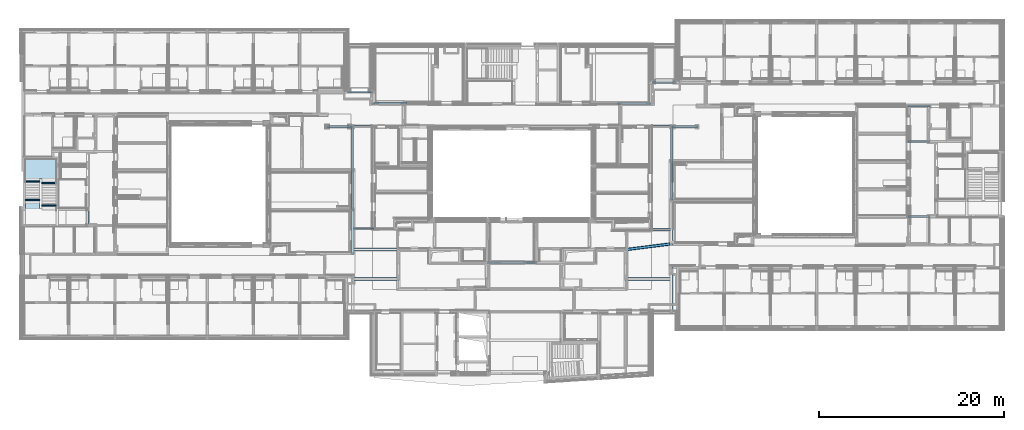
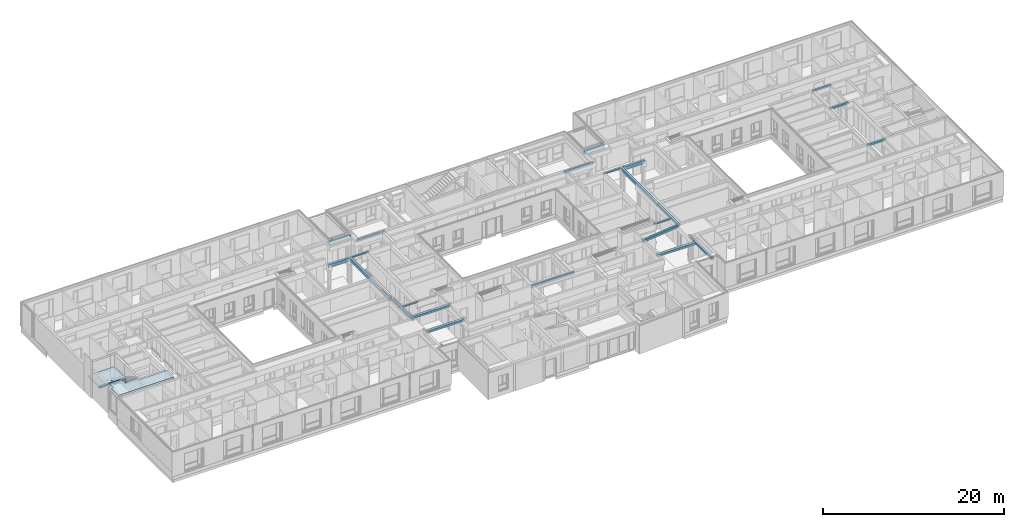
# One storey, part 6 of 207: 24 beams, 6 slabs.
"""IFC4 building model written with IfcOpenShell, lengths in metres."""

from ifc_helpers import new_model, entity, si_unit, converted_unit, derived_unit, frame, frame_2d, origin, origin_with_axes, place, context, subcontext, project, spatial, polyline, rectangle, outline, extrude, faceted_brep, material, element, save


model = new_model("IFC4")

# Units and contexts
model_context = context("Model", 3, precision=1e-05, world=origin())
body_context = subcontext(model_context, "Body", "Model", "MODEL_VIEW")
ifc_project = project(units=[si_unit("LENGTHUNIT", "METRE"), si_unit("AREAUNIT", "SQUARE_METRE"), si_unit("VOLUMEUNIT", "CUBIC_METRE"), si_unit("MASSUNIT", "GRAM", prefix="KILO"), converted_unit("PLANEANGLEUNIT", "DEGREE", entity("IfcPlaneAngleMeasure", 0.0174532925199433), si_unit("PLANEANGLEUNIT", "RADIAN"), dimensions=[0, 0, 0, 0, 0, 0, 0]), derived_unit("THERMALTRANSMITTANCEUNIT", [(si_unit("POWERUNIT", "WATT"), 1), (si_unit("THERMODYNAMICTEMPERATUREUNIT", "KELVIN"), -1), (si_unit("LENGTHUNIT", "METRE"), -2)]), derived_unit("VOLUMETRICFLOWRATEUNIT", [(si_unit("LENGTHUNIT", "METRE"), 3), (converted_unit("TIMEUNIT", "hour", entity("IfcTimeMeasure", 3600.0), si_unit("TIMEUNIT", "SECOND"), dimensions=[0, 0, 1, 0, 0, 0, 0]), -1), (si_unit("LENGTHUNIT", "METRE"), -1)])], contexts=[model_context])

# Site, building, storey
site_placement = place(None, origin())
site = spatial("IfcSite", under=ifc_project, at=site_placement, Name="Psychiatrie Neubau Wunstorf", CompositionType="ELEMENT")
building_placement = place(site_placement, origin())
building = spatial("IfcBuilding", under=site, at=building_placement, Name="Neubau H2 Stationsgebäude", CompositionType="ELEMENT")
storey_placement = place(building_placement, frame((0.0, 0.0, -0.2)))
storey = spatial("IfcBuildingStorey", under=building, at=storey_placement, Name="H2 Ebene 0", CompositionType="ELEMENT", Elevation=-0.2)

# Beams
ifc_material_1 = material(Name="BS Bekleidung")
beam_1_placement = place(storey_placement, frame((68.1750000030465, 25.114, 3.164)))
element("IfcBeam", 1, at=beam_1_placement, inside=storey, material=ifc_material_1, PredefinedType="NOTDEFINED", context=body_context, shape_type="Brep", body=[
    faceted_brep([(0.0, 0.232, 0.0), (0.0, 0.0, 0.0), (2.65, 0.0, 0.0), (2.65, 0.232, 0.0), (0.0, 0.196, 0.436), (0.0, 0.232, 0.436), (2.65, 0.232, 0.436), (2.65, 0.196, 0.436), (0.0, 0.196, 0.036), (0.0, 0.036, 0.036), (0.0, 0.036, 0.436), (0.0, 0.0, 0.436), (2.65, 0.0, 0.436), (2.65, 0.036, 0.436), (2.65, 0.036, 0.036), (2.65, 0.196, 0.036)], [[[0, 1, 2, 3]], [[4, 5, 6, 7]], [[8, 9, 10, 11, 1, 0, 5, 4]], [[2, 1, 11, 12]], [[7, 6, 3, 2, 12, 13, 14, 15]], [[0, 3, 6, 5]], [[13, 12, 11, 10]], [[14, 9, 8, 15]], [[13, 10, 9, 14]], [[15, 8, 4, 7]]], orient=[[False], [False], [False], [False], [False], [False], [False], [False], [False], [False]]),
])
ifc_material_2 = material(Name="BS Bekleidung")
beam_2_placement = place(storey_placement, frame((35.1750000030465, 24.114, 3.164)))
element("IfcBeam", 2, at=beam_2_placement, inside=storey, material=ifc_material_2, PredefinedType="NOTDEFINED", context=body_context, shape_type="Brep", body=[
    faceted_brep([(0.0, 0.231998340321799, 0.0), (0.0, 0.0, 0.0), (2.71849999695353, 3.66210940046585e-06, 0.0), (2.71849999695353, 0.2320020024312, 0.0), (0.0, 0.195998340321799, 0.436), (0.0, 0.231998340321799, 0.436), (2.71849999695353, 0.2320020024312, 0.436), (2.71849999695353, 0.1960020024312, 0.436), (0.0, 0.195998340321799, 0.036), (0.0, 0.036, 0.036), (0.0, 0.036, 0.436), (0.0, 0.0, 0.436), (2.71849999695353, 3.66210940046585e-06, 0.436), (2.71849999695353, 0.0360036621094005, 0.436), (2.71849999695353, 0.0360036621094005, 0.036), (2.71849999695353, 0.1960020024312, 0.036)], [[[0, 1, 2, 3]], [[4, 5, 6, 7]], [[8, 9, 10, 11, 1, 0, 5, 4]], [[2, 1, 11, 12]], [[7, 6, 3, 2, 12, 13, 14, 15]], [[0, 3, 6, 5]], [[13, 12, 11, 10]], [[14, 9, 8, 15]], [[13, 10, 9, 14]], [[15, 8, 4, 7]]], orient=[[False], [False], [False], [False], [False], [False], [False], [False], [False], [False]]),
])
ifc_material_3 = material(Name="BS Bekleidung")
beam_3_placement = place(storey_placement, frame((65.2457246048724, 6.98291094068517, 3.334)))
element("IfcBeam", 3, at=beam_3_placement, inside=storey, material=ifc_material_3, PredefinedType="NOTDEFINED", context=body_context, shape_type="Brep", body=[
    faceted_brep([(0.0, 0.309533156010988, 0.0), (0.0391564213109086, 0.0, 0.0), (4.91465345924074, 0.616757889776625, 0.0), (4.91388004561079, 0.931146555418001, 0.0), (0.0391564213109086, 0.0, 0.266), (4.91465345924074, 0.616757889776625, 0.266), (4.91388004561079, 0.931146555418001, 0.266), (0.0, 0.309533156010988, 0.266), (0.00451804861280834, 0.273817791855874, 0.266), (0.00451804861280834, 0.273817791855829, 0.036), (0.0346383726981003, 0.0357153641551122, 0.036), (0.0346383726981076, 0.035715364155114, 0.266), (4.91456421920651, 0.653033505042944, 0.266), (4.91456421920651, 0.653033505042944, 0.036), (4.91396928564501, 0.894870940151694, 0.036), (4.91396928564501, 0.894870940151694, 0.266)], [[[0, 1, 2, 3]], [[2, 1, 4, 5]], [[0, 3, 6, 7]], [[4, 1, 0, 7, 8, 9, 10, 11]], [[6, 3, 2, 5, 12, 13, 14, 15]], [[7, 6, 15, 8]], [[5, 4, 11, 12]], [[12, 11, 10, 13]], [[8, 15, 14, 9]], [[14, 13, 10, 9]]], orient=[[False], [False], [False], [False], [False], [False], [False], [False], [False], [False]]),
])
ifc_material_4 = material(Name="HEA240")
beam_4_placement = place(storey_placement, frame((65.2649913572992, 7.01668535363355, 3.37)))
element("IfcBeam", 4, at=beam_4_placement, inside=storey, material=ifc_material_4, Name="HEA240", PredefinedType="NOTDEFINED", context=body_context, shape_type="Brep", body=[
    faceted_brep([(0.0, 0.241912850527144, 0.0), (4.87000017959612, 0.858000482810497, 0.0), (4.87000017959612, 0.858000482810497, 0.23), (0.0, 0.241912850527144, 0.23), (4.86999999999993, 0.616087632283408, 0.0), (4.86999999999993, 0.616087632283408, 0.23), (0.0, 0.0, 0.0), (0.0, 0.0, 0.23)], [[[0, 1, 2, 3]], [[1, 4, 5, 2]], [[4, 6, 7, 5]], [[6, 0, 3, 7]], [[7, 3, 2, 5]], [[0, 6, 4, 1]]], orient=[[False], [False], [False], [False], [False], [False]]),
])
ifc_material_5 = material(Name="BS Bekleidung")
beam_5_placement = place(storey_placement, frame((70.099000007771, 7.63750000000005, 3.334)))
element("IfcBeam", 5, at=beam_5_placement, inside=storey, material=ifc_material_5, PredefinedType="NOTDEFINED", context=body_context, shape_type="Brep", body=[
    faceted_brep([(0.0, 0.0, 0.0), (0.312, 0.0, 0.0), (0.312, 4.81255950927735, 0.0), (0.0, 4.81255950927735, 0.0), (0.036, 0.0, 0.266), (0.0, 0.0, 0.266), (0.0, 4.81255950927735, 0.266), (0.036, 4.81255950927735, 0.266), (0.036, 0.0, 0.036), (0.276, 0.0, 0.036), (0.276, 0.0, 0.266), (0.312, 0.0, 0.266), (0.312, 4.81255950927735, 0.266), (0.276, 4.81255950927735, 0.266), (0.276, 4.81255950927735, 0.036), (0.036, 4.81255950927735, 0.036)], [[[0, 1, 2, 3]], [[4, 5, 6, 7]], [[8, 9, 10, 11, 1, 0, 5, 4]], [[2, 1, 11, 12]], [[7, 6, 3, 2, 12, 13, 14, 15]], [[0, 3, 6, 5]], [[13, 12, 11, 10]], [[14, 9, 8, 15]], [[13, 10, 9, 14]], [[15, 8, 4, 7]]], orient=[[False], [False], [False], [False], [False], [False], [False], [False], [False], [False]]),
])
ifc_material_6 = material(Name="BS Bekleidung")
beam_6_placement = place(storey_placement, frame((35.5889950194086, 6.63699856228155, 3.334)))
element("IfcBeam", 6, at=beam_6_placement, inside=storey, material=ifc_material_6, PredefinedType="NOTDEFINED", context=body_context, shape_type="Brep", body=[
    faceted_brep([(0.0, 2.4817354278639e-07, 0.0), (0.311999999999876, 0.0, 0.0), (0.312004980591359, 4.81655673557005, 0.0), (4.98059134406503e-06, 4.81655673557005, 0.0), (0.036, 2.4817354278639e-07, 0.266), (0.0, 2.4817354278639e-07, 0.266), (4.98059134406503e-06, 4.81655673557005, 0.266), (0.0360049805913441, 4.81655673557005, 0.266), (0.036, 2.4817354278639e-07, 0.036), (0.275999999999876, 0.0, 0.036), (0.275999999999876, 0.0, 0.266), (0.311999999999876, 0.0, 0.266), (0.312004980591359, 4.81655673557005, 0.266), (0.276004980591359, 4.81655673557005, 0.266), (0.276004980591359, 4.81655673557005, 0.036), (0.0360049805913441, 4.81655673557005, 0.036)], [[[0, 1, 2, 3]], [[4, 5, 6, 7]], [[0, 5, 4, 8, 9, 10, 11, 1]], [[2, 1, 11, 12]], [[7, 6, 3, 2, 12, 13, 14, 15]], [[0, 3, 6, 5]], [[13, 12, 11, 10]], [[14, 9, 8, 15]], [[13, 10, 9, 14]], [[15, 8, 4, 7]]], orient=[[False], [False], [False], [False], [False], [False], [False], [False], [False], [False]]),
])
ifc_material_7 = material(Name="BS Bekleidung")
beam_7_placement = place(storey_placement, frame((35.8649950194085, 6.99049353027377, 3.334)))
element("IfcBeam", 7, at=beam_7_placement, inside=storey, material=ifc_material_7, PredefinedType="NOTDEFINED", context=body_context, shape_type="Brep", body=[
    faceted_brep([(0.0, 0.312000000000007, 0.0), (0.0, 0.0, 0.0), (4.87000253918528, 8.90260331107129e-06, 0.0), (4.87000253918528, 0.312008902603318, 0.0), (0.0, 0.276000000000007, 0.266), (0.0, 0.312000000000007, 0.266), (4.87000253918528, 0.312008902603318, 0.266), (4.87000253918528, 0.276008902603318, 0.266), (0.0, 0.276000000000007, 0.036), (0.0, 0.036, 0.036), (0.0, 0.036, 0.266), (0.0, 0.0, 0.266), (4.87000253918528, 8.90260331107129e-06, 0.266), (4.87000253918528, 0.0360089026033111, 0.266), (4.87000253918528, 0.0360089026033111, 0.036), (4.87000253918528, 0.276008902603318, 0.036)], [[[0, 1, 2, 3]], [[4, 5, 6, 7]], [[8, 9, 10, 11, 1, 0, 5, 4]], [[2, 1, 11, 12]], [[7, 6, 3, 2, 12, 13, 14, 15]], [[0, 3, 6, 5]], [[13, 12, 11, 10]], [[14, 9, 8, 15]], [[13, 10, 9, 14]], [[15, 8, 4, 7]]], orient=[[False], [False], [False], [False], [False], [False], [False], [False], [False], [False]]),
])
ifc_material_8 = material(Name="BS Bekleidung")
beam_8_placement = place(storey_placement, frame((35.8649954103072, 9.3239943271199, 3.431)))
element("IfcBeam", 8, at=beam_8_placement, inside=storey, material=ifc_material_8, PredefinedType="NOTDEFINED", context=body_context, shape_type="Brep", body=[
    faceted_brep([(0.0, 0.212, 0.0), (0.0, 0.0, 0.0), (2.17500517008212, 0.0, 0.0), (2.17500517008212, 0.212, 0.0), (0.0, 0.176, 0.169), (0.0, 0.212, 0.169), (2.17500517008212, 0.212, 0.169), (2.17500517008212, 0.176, 0.169), (0.0, 0.176, 0.036), (0.0, 0.036, 0.036), (0.0, 0.036, 0.169), (0.0, 0.0, 0.169), (2.17500517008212, 0.0, 0.169), (2.17500517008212, 0.036, 0.169), (2.17500517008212, 0.036, 0.036), (2.17500517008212, 0.176, 0.036)], [[[0, 1, 2, 3]], [[4, 5, 6, 7]], [[8, 9, 10, 11, 1, 0, 5, 4]], [[2, 1, 11, 12]], [[7, 6, 3, 2, 12, 13, 14, 15]], [[0, 3, 6, 5]], [[13, 12, 11, 10]], [[14, 9, 8, 15]], [[13, 10, 9, 14]], [[15, 8, 4, 7]]], orient=[[False], [False], [False], [False], [False], [False], [False], [False], [False], [False]]),
])
ifc_material_9 = material(Name="BS Bekleidung")
beam_9_placement = place(storey_placement, frame((67.9099895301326, 9.19899755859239, 3.431)))
element("IfcBeam", 9, at=beam_9_placement, inside=storey, material=ifc_material_9, PredefinedType="NOTDEFINED", context=body_context, shape_type="Brep", body=[
    faceted_brep([(0.0, 0.212, 0.0), (0.0, 0.0, 0.0), (2.22501047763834, 0.0, 0.0), (2.22501047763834, 0.212000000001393, 0.0), (0.0, 0.176, 0.169), (0.0, 0.212, 0.169), (2.22501047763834, 0.212000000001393, 0.169), (2.22501047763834, 0.176000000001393, 0.169), (0.0, 0.176, 0.036), (0.0, 0.036, 0.036), (0.0, 0.036, 0.169), (0.0, 0.0, 0.169), (2.22501047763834, 0.0, 0.169), (2.22501047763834, 0.0360000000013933, 0.169), (2.22501047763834, 0.0360000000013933, 0.036), (2.22501047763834, 0.176000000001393, 0.036)], [[[0, 1, 2, 3]], [[4, 5, 6, 7]], [[8, 9, 10, 11, 1, 0, 5, 4]], [[2, 1, 11, 12]], [[7, 6, 3, 2, 12, 13, 14, 15]], [[0, 3, 6, 5]], [[13, 12, 11, 10]], [[14, 9, 8, 15]], [[13, 10, 9, 14]], [[15, 8, 4, 7]]], orient=[[False], [False], [False], [False], [False], [False], [False], [False], [False], [False]]),
])
ifc_material_10 = material(Name="BS Bekleidung")
beam_10_placement = place(storey_placement, frame((70.0989950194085, 0.3399963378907, 3.334)))
element("IfcBeam", 10, at=beam_10_placement, inside=storey, material=ifc_material_10, PredefinedType="NOTDEFINED", context=body_context, shape_type="Brep", body=[
    faceted_brep([(0.0, 0.0, 0.0), (0.312, 0.0, 0.0), (0.312, 4.96250366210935, 0.0), (0.0, 4.96250366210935, 0.0), (0.036, 0.0, 0.266), (0.0, 0.0, 0.266), (0.0, 4.96250366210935, 0.266), (0.036, 4.96250366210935, 0.266), (0.036, 0.0, 0.036), (0.276, 0.0, 0.036), (0.276, 0.0, 0.266), (0.312, 0.0, 0.266), (0.312, 4.96250366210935, 0.266), (0.276, 4.96250366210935, 0.266), (0.276, 4.96250366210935, 0.036), (0.036, 4.96250366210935, 0.036)], [[[0, 1, 2, 3]], [[4, 5, 6, 7]], [[8, 9, 10, 11, 1, 0, 5, 4]], [[2, 1, 11, 12]], [[7, 6, 3, 2, 12, 13, 14, 15]], [[0, 3, 6, 5]], [[13, 12, 11, 10]], [[14, 9, 8, 15]], [[13, 10, 9, 14]], [[15, 8, 4, 7]]], orient=[[False], [False], [False], [False], [False], [False], [False], [False], [False], [False]]),
])
ifc_material_11 = material(Name="BS Bekleidung")
beam_11_placement = place(storey_placement, frame((95.8864937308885, 22.6039990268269, 3.364)))
element("IfcBeam", 11, at=beam_11_placement, inside=storey, material=ifc_material_11, PredefinedType="NOTDEFINED", context=body_context, shape_type="Brep", body=[
    faceted_brep([(0.0, 0.232, 0.0), (0.0, 0.0, 0.0), (2.38850128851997, 0.0, 0.0), (2.38850128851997, 0.232, 0.0), (0.0, 0.196, 0.236), (0.0, 0.232, 0.236), (2.38850128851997, 0.232, 0.236), (2.38850128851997, 0.196, 0.236), (0.0, 0.196, 0.036), (0.0, 0.036, 0.036), (0.0, 0.036, 0.236), (0.0, 0.0, 0.236), (2.38850128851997, 0.0, 0.236), (2.38850128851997, 0.036, 0.236), (2.38850128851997, 0.036, 0.036), (2.38850128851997, 0.196, 0.036)], [[[0, 1, 2, 3]], [[4, 5, 6, 7]], [[8, 9, 10, 11, 1, 0, 5, 4]], [[2, 1, 11, 12]], [[7, 6, 3, 2, 12, 13, 14, 15]], [[0, 3, 6, 5]], [[13, 12, 11, 10]], [[14, 9, 8, 15]], [[13, 10, 9, 14]], [[15, 8, 4, 7]]], orient=[[False], [False], [False], [False], [False], [False], [False], [False], [False], [False]]),
])
ifc_material_12 = material(Name="BS Bekleidung")
beam_12_placement = place(storey_placement, frame((95.8864937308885, 18.7540040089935, 3.364)))
element("IfcBeam", 12, at=beam_12_placement, inside=storey, material=ifc_material_12, PredefinedType="NOTDEFINED", context=body_context, shape_type="Brep", body=[
    faceted_brep([(0.0, 0.232, 0.0), (0.0, 0.0, 0.0), (2.38850128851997, 4.22835619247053e-07, 0.0), (2.38850128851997, 0.232000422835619, 0.0), (0.0, 0.196, 0.236), (0.0, 0.232, 0.236), (2.38850128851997, 0.232000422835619, 0.236), (2.38850128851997, 0.196000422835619, 0.236), (0.0, 0.196, 0.036), (0.0, 0.036, 0.036), (0.0, 0.036, 0.236), (0.0, 0.0, 0.236), (2.38850128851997, 4.22835619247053e-07, 0.236), (2.38850128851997, 0.0360004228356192, 0.236), (2.38850128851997, 0.0360004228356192, 0.036), (2.38850128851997, 0.196000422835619, 0.036)], [[[0, 1, 2, 3]], [[4, 5, 6, 7]], [[8, 9, 10, 11, 1, 0, 5, 4]], [[2, 1, 11, 12]], [[7, 6, 3, 2, 12, 13, 14, 15]], [[0, 3, 6, 5]], [[13, 12, 11, 10]], [[14, 9, 8, 15]], [[13, 10, 9, 14]], [[15, 8, 4, 7]]], orient=[[False], [False], [False], [False], [False], [False], [False], [False], [False], [False]]),
])
ifc_material_13 = material(Name="BS Bekleidung")
beam_13_placement = place(storey_placement, frame((50.2855000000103, 5.61749969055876, 3.245)))
element("IfcBeam", 13, at=beam_13_placement, inside=storey, material=ifc_material_13, PredefinedType="NOTDEFINED", context=body_context, shape_type="Brep", body=[
    faceted_brep([(0.0, 0.232000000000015, 0.0), (0.0, 0.0, 0.0), (5.44700000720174, 0.0, 0.0), (5.44699980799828, 0.232, 0.0), (0.0, 0.196, 0.355), (0.0, 0.232000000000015, 0.355), (5.44699960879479, 0.232, 0.355), (5.44699960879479, 0.196, 0.355), (0.0, 0.196, 0.036), (0.0, 0.036, 0.036), (0.0, 0.036, 0.355), (0.0, 0.0, 0.355), (5.44699980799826, 0.0, 0.355), (5.44699980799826, 0.036, 0.355), (5.44700000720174, 0.036, 0.036), (5.44699980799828, 0.196, 0.036)], [[[0, 1, 2, 3]], [[4, 5, 6, 7]], [[8, 9, 10, 11, 1, 0, 5, 4]], [[2, 1, 11, 12]], [[7, 6, 3, 2, 12, 13, 14, 15]], [[0, 3, 6, 5]], [[13, 12, 11, 10]], [[14, 9, 8, 15]], [[13, 10, 9, 14]], [[15, 8, 4, 7]]], orient=[[False], [False], [False], [False], [False], [False], [False], [False], [False], [False]]),
])
ifc_material_14 = material(Name="BS Bekleidung")
beam_14_placement = place(storey_placement, frame((35.8649950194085, 3.80399969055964, 3.334)))
element("IfcBeam", 14, at=beam_14_placement, inside=storey, material=ifc_material_14, PredefinedType="NOTDEFINED", context=body_context, shape_type="Brep", body=[
    faceted_brep([(0.0, 0.312000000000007, 0.0), (0.0, 0.0, 0.0), (4.87000253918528, 0.0, 0.0), (4.87000253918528, 0.312000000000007, 0.0), (0.0, 0.276000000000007, 0.266), (0.0, 0.312000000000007, 0.266), (4.87000253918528, 0.312000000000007, 0.266), (4.87000253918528, 0.276000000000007, 0.266), (0.0, 0.276000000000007, 0.036), (0.0, 0.036, 0.036), (0.0, 0.036, 0.266), (0.0, 0.0, 0.266), (4.87000253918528, 0.0, 0.266), (4.87000253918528, 0.036, 0.266), (4.87000253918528, 0.036, 0.036), (4.87000253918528, 0.276000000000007, 0.036)], [[[0, 1, 2, 3]], [[4, 5, 6, 7]], [[8, 9, 10, 11, 1, 0, 5, 4]], [[2, 1, 11, 12]], [[7, 6, 3, 2, 12, 13, 14, 15]], [[0, 3, 6, 5]], [[13, 12, 11, 10]], [[14, 9, 8, 15]], [[13, 10, 9, 14]], [[15, 8, 4, 7]]], orient=[[False], [False], [False], [False], [False], [False], [False], [False], [False], [False]]),
])
ifc_material_15 = material(Name="BS Bekleidung")
beam_15_placement = place(storey_placement, frame((65.2650024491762, 3.80399084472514, 3.334)))
element("IfcBeam", 15, at=beam_15_placement, inside=storey, material=ifc_material_15, PredefinedType="NOTDEFINED", context=body_context, shape_type="Brep", body=[
    faceted_brep([(0.0, 0.312006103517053, 0.0), (0.0, 6.10351704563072e-06, 0.0), (4.86999257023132, 0.0, 0.0), (4.86999257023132, 0.312000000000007, 0.0), (0.0, 0.276006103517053, 0.266), (0.0, 0.312006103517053, 0.266), (4.86999257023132, 0.312000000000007, 0.266), (4.86999257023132, 0.276000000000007, 0.266), (0.0, 0.276006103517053, 0.036), (0.0, 0.0360061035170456, 0.036), (0.0, 0.0360061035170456, 0.266), (0.0, 6.10351704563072e-06, 0.266), (4.86999257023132, 0.0, 0.266), (4.86999257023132, 0.036, 0.266), (4.86999257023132, 0.036, 0.036), (4.86999257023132, 0.276000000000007, 0.036)], [[[0, 1, 2, 3]], [[4, 5, 6, 7]], [[8, 9, 10, 11, 1, 0, 5, 4]], [[2, 1, 11, 12]], [[7, 6, 3, 2, 12, 13, 14, 15]], [[0, 3, 6, 5]], [[13, 12, 11, 10]], [[14, 9, 8, 15]], [[13, 10, 9, 14]], [[15, 8, 4, 7]]], orient=[[False], [False], [False], [False], [False], [False], [False], [False], [False], [False]]),
])
ifc_material_16 = material(Name="BS Bekleidung")
beam_16_placement = place(storey_placement, frame((64.4125000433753, 22.8639969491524, 3.264)))
element("IfcBeam", 16, at=beam_16_placement, inside=storey, material=ifc_material_16, PredefinedType="NOTDEFINED", context=body_context, shape_type="Brep", body=[
    faceted_brep([(0.0, 0.232002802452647, 0.0), (0.0, 3.18191962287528e-06, 0.0), (3.64053015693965, 0.0, 0.0), (3.64049325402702, 0.231999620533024, 0.0), (0.0, 0.196002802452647, 0.336), (0.0, 0.232002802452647, 0.336), (3.64049325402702, 0.231999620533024, 0.336), (3.64049325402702, 0.195999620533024, 0.336), (0.0, 0.196002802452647, 0.036), (0.0, 0.0360031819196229, 0.036), (0.0, 0.0360031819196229, 0.336), (0.0, 3.18191962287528e-06, 0.336), (3.64053015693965, 0.0, 0.336), (3.64053015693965, 0.036, 0.336), (3.64053015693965, 0.036, 0.036), (3.64049325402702, 0.195999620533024, 0.036)], [[[0, 1, 2, 3]], [[4, 5, 6, 7]], [[8, 9, 10, 11, 1, 0, 5, 4]], [[2, 1, 11, 12]], [[7, 6, 3, 2, 12, 13, 14, 15]], [[0, 3, 6, 5]], [[13, 12, 11, 10]], [[14, 9, 8, 15]], [[13, 10, 9, 14]], [[15, 8, 4, 7]]], orient=[[False], [False], [False], [False], [False], [False], [False], [False], [False], [False]]),
])
ifc_material_17 = material(Name="BS Bekleidung")
beam_17_placement = place(storey_placement, frame((38.0049966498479, 22.8999932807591, 3.281)))
element("IfcBeam", 17, at=beam_17_placement, inside=storey, material=ifc_material_17, PredefinedType="NOTDEFINED", context=body_context, shape_type="Brep", body=[
    faceted_brep([(0.0, 0.218005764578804, 0.0), (0.0, 5.76457891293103e-06, 0.0), (3.60050279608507, 3.66210930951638e-06, 0.0), (3.60050277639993, 0.2180036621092, 0.0), (0.0, 0.199005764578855, 0.319), (0.0, 0.218002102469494, 0.319), (3.60050277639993, 0.217999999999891, 0.319), (3.60050277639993, 0.199003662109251, 0.319), (0.0, 0.199005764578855, 0.019), (0.0, 0.0190057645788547, 0.019), (0.0, 0.0190057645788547, 0.319), (0.0, 2.10246960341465e-06, 0.319), (3.60050279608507, 0.0, 0.319), (3.60050279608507, 0.0190036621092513, 0.319), (3.60050279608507, 0.0190036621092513, 0.019), (3.60050277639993, 0.199003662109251, 0.019)], [[[0, 1, 2, 3]], [[4, 5, 6, 7]], [[8, 9, 10, 11, 1, 0, 5, 4]], [[2, 1, 11, 12]], [[7, 6, 3, 2, 12, 13, 14, 15]], [[0, 3, 6, 5]], [[13, 12, 11, 10]], [[14, 9, 8, 15]], [[13, 10, 9, 14]], [[15, 8, 4, 7]]], orient=[[False], [False], [False], [False], [False], [False], [False], [False], [False], [False]]),
])
ifc_material_18 = material(Name="BS Bekleidung")
beam_18_placement = place(storey_placement, frame((70.1640061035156, 12.4500595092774, 3.164)))
element("IfcBeam", 18, at=beam_18_placement, inside=storey, material=ifc_material_18, PredefinedType="NOTDEFINED", context=body_context, shape_type="Brep", body=[
    faceted_brep([(0.0, 0.0, 0.0), (0.272000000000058, 0.0, 0.0), (0.272000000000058, 8.12494068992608, 0.0), (0.0, 8.12494068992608, 0.0), (0.036, 0.0, 0.436), (0.0, 0.0, 0.436), (0.0, 8.12494068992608, 0.436), (0.036, 8.12494068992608, 0.436), (0.036, 0.0, 0.036), (0.236000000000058, 0.0, 0.036), (0.236000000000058, 0.0, 0.436), (0.272000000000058, 0.0, 0.436), (0.272000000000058, 8.12494068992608, 0.436), (0.236000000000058, 8.12494068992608, 0.436), (0.236000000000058, 8.12494068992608, 0.036), (0.036, 8.12494068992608, 0.036)], [[[0, 1, 2, 3]], [[4, 5, 6, 7]], [[8, 9, 10, 11, 1, 0, 5, 4]], [[2, 1, 11, 12]], [[7, 6, 3, 2, 12, 13, 14, 15]], [[0, 3, 6, 5]], [[13, 12, 11, 10]], [[14, 9, 8, 15]], [[13, 10, 9, 14]], [[15, 8, 4, 7]]], orient=[[False], [False], [False], [False], [False], [False], [False], [False], [False], [False]]),
])
ifc_material_19 = material(Name="BS Bekleidung")
beam_19_placement = place(storey_placement, frame((35.564, 11.4535552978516, 3.164)))
element("IfcBeam", 19, at=beam_19_placement, inside=storey, material=ifc_material_19, PredefinedType="NOTDEFINED", context=body_context, shape_type="Brep", body=[
    faceted_brep([(0.0, 0.0, 0.0), (0.272, 0.0, 0.0), (0.272, 9.1214447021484, 0.0), (0.0, 9.1214447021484, 0.0), (0.036, 0.0, 0.436), (0.0, 0.0, 0.436), (0.0, 9.1214447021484, 0.436), (0.036, 9.1214447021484, 0.436), (0.036, 0.0, 0.036), (0.236, 0.0, 0.036), (0.236, 0.0, 0.436), (0.272, 0.0, 0.436), (0.272, 9.1214447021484, 0.436), (0.236, 9.1214447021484, 0.436), (0.236, 9.1214447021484, 0.036), (0.036, 9.1214447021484, 0.036)], [[[0, 1, 2, 3]], [[4, 5, 6, 7]], [[8, 9, 10, 11, 1, 0, 5, 4]], [[2, 1, 11, 12]], [[7, 6, 3, 2, 12, 13, 14, 15]], [[0, 3, 6, 5]], [[13, 12, 11, 10]], [[14, 9, 8, 15]], [[13, 10, 9, 14]], [[15, 8, 4, 7]]], orient=[[False], [False], [False], [False], [False], [False], [False], [False], [False], [False]]),
])
ifc_material_20 = material(Name="BS Bekleidung")
beam_20_placement = place(storey_placement, frame((32.8829956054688, 20.3199973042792, 3.164)))
element("IfcBeam", 20, at=beam_20_placement, inside=storey, material=ifc_material_20, PredefinedType="NOTDEFINED", context=body_context, shape_type="Brep", body=[
    faceted_brep([(0.0, 0.272, 0.0), (0.0, 0.0, 0.0), (2.68100439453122, 0.0, 0.0), (2.68100439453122, 0.272, 0.0), (0.0, 0.236, 0.436), (0.0, 0.272, 0.436), (2.68100439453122, 0.272, 0.436), (2.68100439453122, 0.236, 0.436), (0.0, 0.236, 0.036), (0.0, 0.036, 0.036), (0.0, 0.036, 0.436), (0.0, 0.0, 0.436), (2.68100439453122, 0.0, 0.436), (2.68100439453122, 0.036, 0.436), (2.68100439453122, 0.036, 0.036), (2.68100439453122, 0.236, 0.036)], [[[0, 1, 2, 3]], [[4, 5, 6, 7]], [[8, 9, 10, 11, 1, 0, 5, 4]], [[2, 1, 11, 12]], [[7, 6, 3, 2, 12, 13, 14, 15]], [[0, 3, 6, 5]], [[13, 12, 11, 10]], [[14, 9, 8, 15]], [[13, 10, 9, 14]], [[15, 8, 4, 7]]], orient=[[False], [False], [False], [False], [False], [False], [False], [False], [False], [False]]),
])
ifc_material_21 = material(Name="BS Bekleidung")
beam_21_placement = place(storey_placement, frame((35.81, 20.379998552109, 3.431)))
element("IfcBeam", 21, at=beam_21_placement, inside=storey, material=ifc_material_21, PredefinedType="NOTDEFINED", context=body_context, shape_type="Brep", body=[
    faceted_brep([(0.0, 0.212, 0.0), (0.0, 0.0, 0.0), (2.26849752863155, 0.0, 0.0), (2.26849752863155, 0.212, 0.0), (0.0, 0.176, 0.169), (0.0, 0.212, 0.169), (2.26849752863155, 0.212, 0.169), (2.26849752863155, 0.176, 0.169), (0.0, 0.176, 0.036), (0.0, 0.036, 0.036), (0.0, 0.036, 0.169), (0.0, 0.0, 0.169), (2.26849752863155, 0.0, 0.169), (2.26849752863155, 0.036, 0.169), (2.26849752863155, 0.036, 0.036), (2.26849752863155, 0.176, 0.036)], [[[0, 1, 2, 3]], [[4, 5, 6, 7]], [[8, 9, 10, 11, 1, 0, 5, 4]], [[2, 1, 11, 12]], [[7, 6, 3, 2, 12, 13, 14, 15]], [[0, 3, 6, 5]], [[13, 12, 11, 10]], [[14, 9, 8, 15]], [[13, 10, 9, 14]], [[15, 8, 4, 7]]], orient=[[False], [False], [False], [False], [False], [False], [False], [False], [False], [False]]),
])
ifc_material_22 = material(Name="BS Bekleidung")
beam_22_placement = place(storey_placement, frame((70.4300000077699, 20.319998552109, 3.164)))
element("IfcBeam", 22, at=beam_22_placement, inside=storey, material=ifc_material_22, PredefinedType="NOTDEFINED", context=body_context, shape_type="Brep", body=[
    faceted_brep([(0.0, 0.272, 0.0), (0.0, 0.0, 0.0), (2.74199706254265, 0.0, 0.0), (2.74199706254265, 0.272, 0.0), (0.0, 0.236, 0.436), (0.0, 0.272, 0.436), (2.74199706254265, 0.272, 0.436), (2.74199706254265, 0.236, 0.436), (0.0, 0.236, 0.036), (0.0, 0.036, 0.036), (0.0, 0.036, 0.436), (0.0, 0.0, 0.436), (2.74199706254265, 0.0, 0.436), (2.74199706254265, 0.036, 0.436), (2.74199706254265, 0.036, 0.036), (2.74199706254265, 0.236, 0.036)], [[[0, 1, 2, 3]], [[4, 5, 6, 7]], [[8, 9, 10, 11, 1, 0, 5, 4]], [[2, 1, 11, 12]], [[7, 6, 3, 2, 12, 13, 14, 15]], [[0, 3, 6, 5]], [[13, 12, 11, 10]], [[14, 9, 8, 15]], [[13, 10, 9, 14]], [[15, 8, 4, 7]]], orient=[[False], [False], [False], [False], [False], [False], [False], [False], [False], [False]]),
])
ifc_material_23 = material(Name="BS Bekleidung")
beam_23_placement = place(storey_placement, frame((67.9750013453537, 20.379998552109, 3.431)))
element("IfcBeam", 23, at=beam_23_placement, inside=storey, material=ifc_material_23, PredefinedType="NOTDEFINED", context=body_context, shape_type="Brep", body=[
    faceted_brep([(0.0, 0.212, 0.0), (0.0, 0.0, 0.0), (2.2250047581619, 0.0, 0.0), (2.2250047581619, 0.212, 0.0), (0.0, 0.176, 0.169), (0.0, 0.212, 0.169), (2.2250047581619, 0.212, 0.169), (2.2250047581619, 0.176, 0.169), (0.0, 0.176, 0.036), (0.0, 0.036, 0.036), (0.0, 0.036, 0.169), (0.0, 0.0, 0.169), (2.2250047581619, 0.0, 0.169), (2.2250047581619, 0.036, 0.169), (2.2250047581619, 0.036, 0.036), (2.2250047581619, 0.176, 0.036)], [[[0, 1, 2, 3]], [[4, 5, 6, 7]], [[8, 9, 10, 11, 1, 0, 5, 4]], [[2, 1, 11, 12]], [[7, 6, 3, 2, 12, 13, 14, 15]], [[0, 3, 6, 5]], [[13, 12, 11, 10]], [[14, 9, 8, 15]], [[13, 10, 9, 14]], [[15, 8, 4, 7]]], orient=[[False], [False], [False], [False], [False], [False], [False], [False], [False], [False]]),
])
ifc_material_24 = material(Name="BS Bekleidung")
beam_24_placement = place(storey_placement, frame((95.8864937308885, 10.6129998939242, 3.364)))
element("IfcBeam", 24, at=beam_24_placement, inside=storey, material=ifc_material_24, PredefinedType="NOTDEFINED", context=body_context, shape_type="Brep", body=[
    faceted_brep([(0.0, 0.231999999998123, 0.0), (0.0, 0.0, 0.0), (2.38850128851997, 0.0, 0.0), (2.38850128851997, 0.231999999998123, 0.0), (0.0, 0.195999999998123, 0.236), (0.0, 0.231999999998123, 0.236), (2.38850128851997, 0.231999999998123, 0.236), (2.38850128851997, 0.195999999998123, 0.236), (0.0, 0.195999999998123, 0.036), (0.0, 0.036, 0.036), (0.0, 0.036, 0.236), (0.0, 0.0, 0.236), (2.38850128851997, 0.0, 0.236), (2.38850128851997, 0.036, 0.236), (2.38850128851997, 0.036, 0.036), (2.38850128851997, 0.195999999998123, 0.036)], [[[0, 1, 2, 3]], [[4, 5, 6, 7]], [[8, 9, 10, 11, 1, 0, 5, 4]], [[2, 1, 11, 12]], [[7, 6, 3, 2, 12, 13, 14, 15]], [[0, 3, 6, 5]], [[13, 12, 11, 10]], [[14, 9, 8, 15]], [[13, 10, 9, 14]], [[15, 8, 4, 7]]], orient=[[False], [False], [False], [False], [False], [False], [False], [False], [False], [False]]),
])

# Slabs
ifc_material_25 = material(Name="Stb")
slab_1_placement = place(storey_placement, frame((0.28, 14.4549998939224, 1.935)))
element("IfcSlab", 25, at=slab_1_placement, inside=storey, material=ifc_material_25, PredefinedType="FLOOR", context=body_context, shape_type="SweptSolid", body=[
    extrude(outline(polyline([(0.0, 2.49), (0.0, 0.149974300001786), (1.545, 0.149974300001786), (1.545, 0.325000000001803), (1.805, 0.325000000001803), (1.805, 0.0), (3.35, 0.0), (3.35, 2.49), (0.0, 2.49)])), origin_with_axes(), (0.0, 0.0, 1.0), 0.25),
])
ifc_material_26 = material(Name="Stb")
slab_2_placement = place(storey_placement, frame((0.28, 14.4549741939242, 1.935)))
element("IfcSlab", 26, at=slab_2_placement, inside=storey, material=ifc_material_26, PredefinedType="FLOOR", context=body_context, shape_type="SweptSolid", body=[
    extrude(rectangle(XDim=0.149999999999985, YDim=1.545, at=frame_2d((0.772499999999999, -0.0749999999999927), x_axis=(-3.41060513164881e-15, -1.0))), frame((0.0, 0.149999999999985, 0.0), z_axis=(0.0, 0.0, 1.0), x_axis=(1.0, 0.0, 0.0)), (0.0, 0.0, 1.0), 0.14),
])
ifc_material_27 = material(Name="Stb")
slab_3_placement = place(storey_placement, frame((0.0299999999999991, 9.87499989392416, 3.6)))
element("IfcSlab", 27, at=slab_3_placement, inside=storey, material=ifc_material_27, PredefinedType="FLOOR", context=body_context, shape_type="SweptSolid", body=[
    extrude(outline(polyline([(0.25, 2.54997430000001), (0.25, 1.5716202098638), (0.0, 1.5716202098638), (0.0, 0.0), (7.1, 0.0), (7.1, 1.50000000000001), (3.6, 1.50000000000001), (3.6, 1.97000000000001), (2.055, 1.97000000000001), (2.055, 1.72500000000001), (1.795, 1.7249999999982), (1.795, 2.54997430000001), (0.25, 2.54997430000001)])), origin_with_axes(), (0.0, 0.0, 1.0), 0.25),
])
ifc_material_28 = material(Name="STB")
slab_4_placement = place(storey_placement, frame((0.279999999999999, 12.4249741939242, 3.6)))
element("IfcSlab", 28, at=slab_4_placement, inside=storey, material=ifc_material_28, PredefinedType="FLOOR", context=body_context, shape_type="SweptSolid", body=[
    extrude(rectangle(XDim=0.15, YDim=1.545, at=frame_2d((-0.772500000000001, 0.075), x_axis=(0.0, 1.0))), frame((1.545, 0.0, 0.0), z_axis=(0.0, 0.0, 1.0), x_axis=(1.0, 0.0, 0.0)), (0.0, 0.0, 1.0), 0.16),
])
ifc_material_29 = material(Name="Stb")
slab_5_placement = place(storey_placement, frame((2.085, 14.3049998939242, 1.935)))
element("IfcSlab", 29, at=slab_5_placement, inside=storey, material=ifc_material_29, PredefinedType="FLOOR", context=body_context, shape_type="SweptSolid", body=[
    extrude(rectangle(XDim=0.15, YDim=1.545, at=frame_2d((0.7725, -0.075), x_axis=(0.0, -1.0))), frame((0.0, 0.15, 0.0), z_axis=(0.0, 0.0, 1.0), x_axis=(1.0, 0.0, 0.0)), (0.0, 0.0, 1.0), 0.14),
])
ifc_material_30 = material(Name="STB")
slab_6_placement = place(storey_placement, frame((2.085, 11.8449998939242, 3.6)))
element("IfcSlab", 30, at=slab_6_placement, inside=storey, material=ifc_material_30, PredefinedType="FLOOR", context=body_context, shape_type="SweptSolid", body=[
    extrude(rectangle(XDim=0.15, YDim=1.545, at=frame_2d((-0.772499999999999, 0.075), x_axis=(0.0, 1.0))), frame((1.545, 0.0, 0.0), z_axis=(0.0, 0.0, 1.0), x_axis=(1.0, 0.0, 0.0)), (0.0, 0.0, 1.0), 0.16),
])

save(model, "model.ifc")
